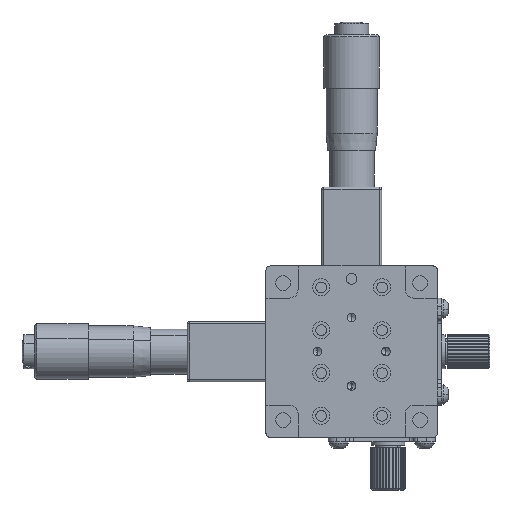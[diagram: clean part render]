
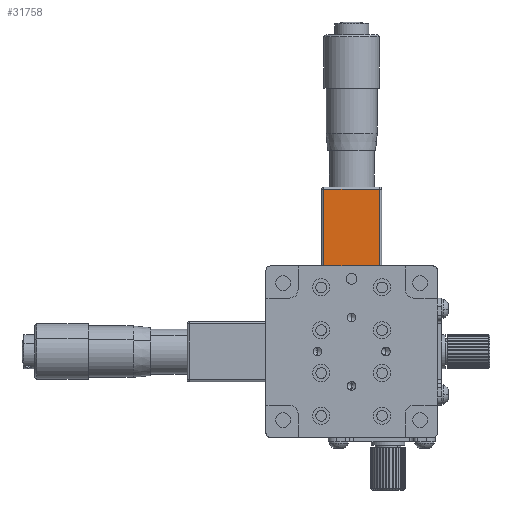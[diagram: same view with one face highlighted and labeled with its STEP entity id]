
A CAD part, front view. The second image highlights one B-rep face of the part: STEP entity #31758.
In plain terms, the highlighted planar face has unit normal (0, -1, 0).
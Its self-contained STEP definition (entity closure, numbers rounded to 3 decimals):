
#1006 = DIRECTION ( 'NONE',  ( 0., 0., -1. ) ) ;
#1549 = VERTEX_POINT ( 'NONE', #29757 ) ;
#2338 = CARTESIAN_POINT ( 'NONE',  ( -7., -9.25, 6. ) ) ;
#2388 = DIRECTION ( 'NONE',  ( 0., 0., 1. ) ) ;
#4670 = EDGE_CURVE ( 'NONE', #9142, #4734, #12099, .T. ) ;
#4734 = VERTEX_POINT ( 'NONE', #22811 ) ;
#5613 = CARTESIAN_POINT ( 'NONE',  ( -6.5, -9.25, -12.4 ) ) ;
#5719 = DIRECTION ( 'NONE',  ( -1., 0., 0. ) ) ;
#5992 = ORIENTED_EDGE ( 'NONE', *, *, #25714, .T. ) ;
#6059 = VECTOR ( 'NONE', #1006, 1000. ) ;
#8449 = VECTOR ( 'NONE', #2388, 1000. ) ;
#9142 = VERTEX_POINT ( 'NONE', #5613 ) ;
#10796 = VECTOR ( 'NONE', #5719, 1000. ) ;
#12099 = LINE ( 'NONE', #22296, #32721 ) ;
#12519 = DIRECTION ( 'NONE',  ( 0., 1., 0. ) ) ;
#13705 = LINE ( 'NONE', #23910, #6059 ) ;
#15024 = FACE_OUTER_BOUND ( 'NONE', #32409, .T. ) ;
#15075 = LINE ( 'NONE', #25296, #8449 ) ;
#15705 = CARTESIAN_POINT ( 'NONE',  ( -6.5, -9.25, 5.5 ) ) ;
#15824 = VERTEX_POINT ( 'NONE', #15705 ) ;
#16835 = AXIS2_PLACEMENT_3D ( 'NONE', #2338, #12519, #22731 ) ;
#17535 = EDGE_CURVE ( 'NONE', #4734, #1549, #15075, .T. ) ;
#18412 = LINE ( 'NONE', #28612, #10796 ) ;
#22256 = ORIENTED_EDGE ( 'NONE', *, *, #28752, .T. ) ;
#22296 = CARTESIAN_POINT ( 'NONE',  ( -20.37, -9.25, -12.4 ) ) ;
#22731 = DIRECTION ( 'NONE',  ( 0., 0., 1. ) ) ;
#22811 = CARTESIAN_POINT ( 'NONE',  ( 6.5, -9.25, -12.4 ) ) ;
#23289 = ORIENTED_EDGE ( 'NONE', *, *, #4670, .T. ) ;
#23910 = CARTESIAN_POINT ( 'NONE',  ( -6.5, -9.25, 6. ) ) ;
#24703 = ORIENTED_EDGE ( 'NONE', *, *, #17535, .T. ) ;
#25238 = PLANE ( 'NONE',  #16835 ) ;
#25296 = CARTESIAN_POINT ( 'NONE',  ( 6.5, -9.25, 6. ) ) ;
#25714 = EDGE_CURVE ( 'NONE', #15824, #9142, #13705, .T. ) ;
#28612 = CARTESIAN_POINT ( 'NONE',  ( -7., -9.25, 5.5 ) ) ;
#28752 = EDGE_CURVE ( 'NONE', #1549, #15824, #18412, .T. ) ;
#29757 = CARTESIAN_POINT ( 'NONE',  ( 6.5, -9.25, 5.5 ) ) ;
#31758 = ADVANCED_FACE ( 'NONE', ( #15024 ), #25238, .F. ) ;
#32409 = EDGE_LOOP ( 'NONE', ( #23289, #24703, #22256, #5992 ) ) ;
#32484 = DIRECTION ( 'NONE',  ( 1., 0., 0. ) ) ;
#32721 = VECTOR ( 'NONE', #32484, 1000. ) ;
